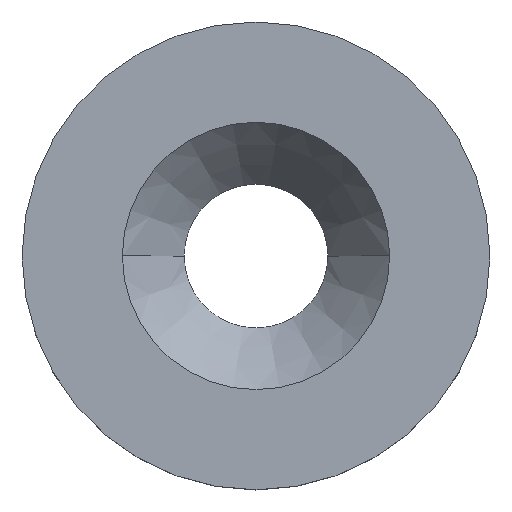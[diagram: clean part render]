
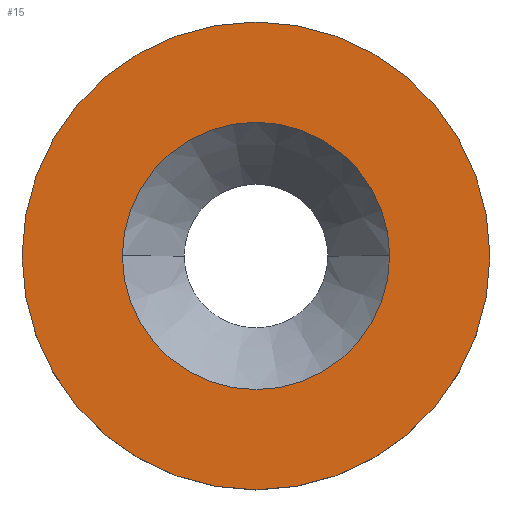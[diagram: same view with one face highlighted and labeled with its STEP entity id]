
A CAD part, top view. The second image highlights one B-rep face of the part: STEP entity #15.
In plain terms, the highlighted planar face has unit normal (0, 0, 1).
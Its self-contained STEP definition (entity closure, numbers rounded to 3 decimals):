
#2 = CARTESIAN_POINT ( 'NONE',  ( -7., 0., 2.5 ) ) ;
#4 = CARTESIAN_POINT ( 'NONE',  ( 7., 0., 2.5 ) ) ;
#11 = AXIS2_PLACEMENT_3D ( 'NONE', #120, #244, #260 ) ;
#15 = ADVANCED_FACE ( 'NONE', ( #46, #238 ), #237, .T. ) ;
#19 = VERTEX_POINT ( 'NONE', #2 ) ;
#46 = FACE_BOUND ( 'NONE', #179, .T. ) ;
#50 = EDGE_CURVE ( 'NONE', #155, #60, #138, .T. ) ;
#60 = VERTEX_POINT ( 'NONE', #214 ) ;
#65 = DIRECTION ( 'NONE',  ( 1., 0., 0. ) ) ;
#77 = DIRECTION ( 'NONE',  ( 0., 0., 1. ) ) ;
#83 = AXIS2_PLACEMENT_3D ( 'NONE', #263, #77, #94 ) ;
#86 = AXIS2_PLACEMENT_3D ( 'NONE', #189, #236, #65 ) ;
#93 = AXIS2_PLACEMENT_3D ( 'NONE', #277, #296, #163 ) ;
#94 = DIRECTION ( 'NONE',  ( 1., 0., 0. ) ) ;
#108 = CARTESIAN_POINT ( 'NONE',  ( 0., 0., 2.5 ) ) ;
#110 = CIRCLE ( 'NONE', #11, 4. ) ;
#115 = EDGE_CURVE ( 'NONE', #19, #176, #254, .T. ) ;
#120 = CARTESIAN_POINT ( 'NONE',  ( 0., 0., 2.5 ) ) ;
#134 = ORIENTED_EDGE ( 'NONE', *, *, #115, .T. ) ;
#135 = EDGE_CURVE ( 'NONE', #60, #155, #110, .T. ) ;
#138 = CIRCLE ( 'NONE', #86, 4. ) ;
#155 = VERTEX_POINT ( 'NONE', #196 ) ;
#158 = ORIENTED_EDGE ( 'NONE', *, *, #135, .F. ) ;
#163 = DIRECTION ( 'NONE',  ( 1., 0., 0. ) ) ;
#176 = VERTEX_POINT ( 'NONE', #4 ) ;
#179 = EDGE_LOOP ( 'NONE', ( #224, #158 ) ) ;
#189 = CARTESIAN_POINT ( 'NONE',  ( 0., 0., 2.5 ) ) ;
#194 = AXIS2_PLACEMENT_3D ( 'NONE', #108, #210, #232 ) ;
#196 = CARTESIAN_POINT ( 'NONE',  ( 4., 0., 2.5 ) ) ;
#210 = DIRECTION ( 'NONE',  ( 0., 0., 1. ) ) ;
#214 = CARTESIAN_POINT ( 'NONE',  ( -4., 0., 2.5 ) ) ;
#224 = ORIENTED_EDGE ( 'NONE', *, *, #50, .F. ) ;
#232 = DIRECTION ( 'NONE',  ( 1., 0., 0. ) ) ;
#236 = DIRECTION ( 'NONE',  ( 0., 0., 1. ) ) ;
#237 = PLANE ( 'NONE',  #93 ) ;
#238 = FACE_OUTER_BOUND ( 'NONE', #271, .T. ) ;
#244 = DIRECTION ( 'NONE',  ( 0., 0., 1. ) ) ;
#254 = CIRCLE ( 'NONE', #83, 7. ) ;
#260 = DIRECTION ( 'NONE',  ( 1., 0., 0. ) ) ;
#262 = CIRCLE ( 'NONE', #194, 7. ) ;
#263 = CARTESIAN_POINT ( 'NONE',  ( 0., 0., 2.5 ) ) ;
#271 = EDGE_LOOP ( 'NONE', ( #134, #295 ) ) ;
#277 = CARTESIAN_POINT ( 'NONE',  ( 0., 0., 2.5 ) ) ;
#280 = EDGE_CURVE ( 'NONE', #176, #19, #262, .T. ) ;
#295 = ORIENTED_EDGE ( 'NONE', *, *, #280, .T. ) ;
#296 = DIRECTION ( 'NONE',  ( 0., 0., 1. ) ) ;
